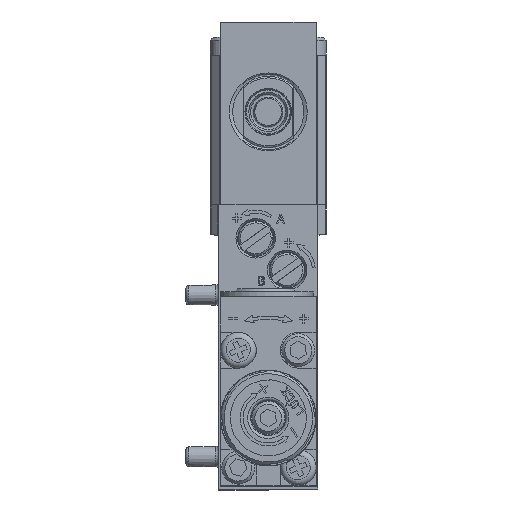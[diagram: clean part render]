
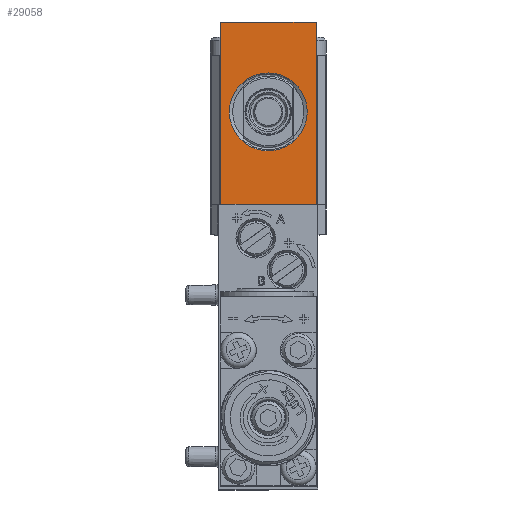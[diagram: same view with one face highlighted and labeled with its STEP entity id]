
A CAD part, top view. The second image highlights one B-rep face of the part: STEP entity #29058.
In plain terms, the highlighted planar face has unit normal (0, 0, 1) as drawn and (1, 0, 0) by its records, which use the part's own axes.
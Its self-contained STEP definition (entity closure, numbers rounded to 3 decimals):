
#2135 = CARTESIAN_POINT ( 'NONE',  ( 0., 15.5, 0. ) ) ;
#3093 = VECTOR ( 'NONE', #46750, 1000. ) ;
#6556 = EDGE_CURVE ( 'NONE', #15421, #49003, #39731, .T. ) ;
#9822 = DIRECTION ( 'NONE',  ( 0., 0., -1. ) ) ;
#10222 = AXIS2_PLACEMENT_3D ( 'NONE', #2135, #55510, #9822 ) ;
#10753 = VECTOR ( 'NONE', #91850, 1000. ) ;
#13151 = LINE ( 'NONE', #33101, #10753 ) ;
#15421 = VERTEX_POINT ( 'NONE', #30173 ) ;
#18147 = DIRECTION ( 'NONE',  ( -1., 0., 0. ) ) ;
#20998 = LINE ( 'NONE', #36407, #59148 ) ;
#24874 = ORIENTED_EDGE ( 'NONE', *, *, #84133, .F. ) ;
#25794 = LINE ( 'NONE', #69799, #3093 ) ;
#26274 = EDGE_LOOP ( 'NONE', ( #83211, #90412, #96438, #24874 ) ) ;
#29058 = ADVANCED_FACE ( 'NONE', ( #59384, #61808 ), #33098, .F. ) ;
#30173 = CARTESIAN_POINT ( 'NONE',  ( 0., 0., -8. ) ) ;
#33098 = PLANE ( 'NONE',  #42585 ) ;
#33101 = CARTESIAN_POINT ( 'NONE',  ( 0., 30.5, 8. ) ) ;
#36407 = CARTESIAN_POINT ( 'NONE',  ( 0., 30.5, -8. ) ) ;
#39731 = LINE ( 'NONE', #75469, #57702 ) ;
#42585 = AXIS2_PLACEMENT_3D ( 'NONE', #63799, #18147, #71478 ) ;
#46413 = EDGE_CURVE ( 'NONE', #64281, #64281, #68258, .T. ) ;
#46750 = DIRECTION ( 'NONE',  ( 0., -1., 0. ) ) ;
#49003 = VERTEX_POINT ( 'NONE', #78320 ) ;
#52785 = DIRECTION ( 'NONE',  ( 0., 0., 1. ) ) ;
#53376 = CARTESIAN_POINT ( 'NONE',  ( 0., 30.5, -8. ) ) ;
#55510 = DIRECTION ( 'NONE',  ( 1., 0., 0. ) ) ;
#57702 = VECTOR ( 'NONE', #52785, 1000. ) ;
#59148 = VECTOR ( 'NONE', #59519, 1000. ) ;
#59384 = FACE_BOUND ( 'NONE', #77553, .T. ) ;
#59519 = DIRECTION ( 'NONE',  ( 0., 0., -1. ) ) ;
#60209 = VERTEX_POINT ( 'NONE', #53376 ) ;
#61808 = FACE_OUTER_BOUND ( 'NONE', #26274, .T. ) ;
#63799 = CARTESIAN_POINT ( 'NONE',  ( 0., 30.5, -9.65 ) ) ;
#64281 = VERTEX_POINT ( 'NONE', #82941 ) ;
#68258 = CIRCLE ( 'NONE', #10222, 6.5 ) ;
#69799 = CARTESIAN_POINT ( 'NONE',  ( 0., 30.5, -8. ) ) ;
#71478 = DIRECTION ( 'NONE',  ( 0., -1., 0. ) ) ;
#75469 = CARTESIAN_POINT ( 'NONE',  ( 0., 0., -9.65 ) ) ;
#75743 = VERTEX_POINT ( 'NONE', #90652 ) ;
#77553 = EDGE_LOOP ( 'NONE', ( #83983 ) ) ;
#78320 = CARTESIAN_POINT ( 'NONE',  ( 0., 0., 8. ) ) ;
#80724 = EDGE_CURVE ( 'NONE', #60209, #15421, #25794, .T. ) ;
#82941 = CARTESIAN_POINT ( 'NONE',  ( 0., 15.5, -6.5 ) ) ;
#83211 = ORIENTED_EDGE ( 'NONE', *, *, #6556, .F. ) ;
#83983 = ORIENTED_EDGE ( 'NONE', *, *, #46413, .F. ) ;
#84133 = EDGE_CURVE ( 'NONE', #49003, #75743, #13151, .T. ) ;
#90412 = ORIENTED_EDGE ( 'NONE', *, *, #80724, .F. ) ;
#90652 = CARTESIAN_POINT ( 'NONE',  ( 0., 30.5, 8. ) ) ;
#91850 = DIRECTION ( 'NONE',  ( 0., 1., 0. ) ) ;
#94256 = EDGE_CURVE ( 'NONE', #75743, #60209, #20998, .T. ) ;
#96438 = ORIENTED_EDGE ( 'NONE', *, *, #94256, .F. ) ;
